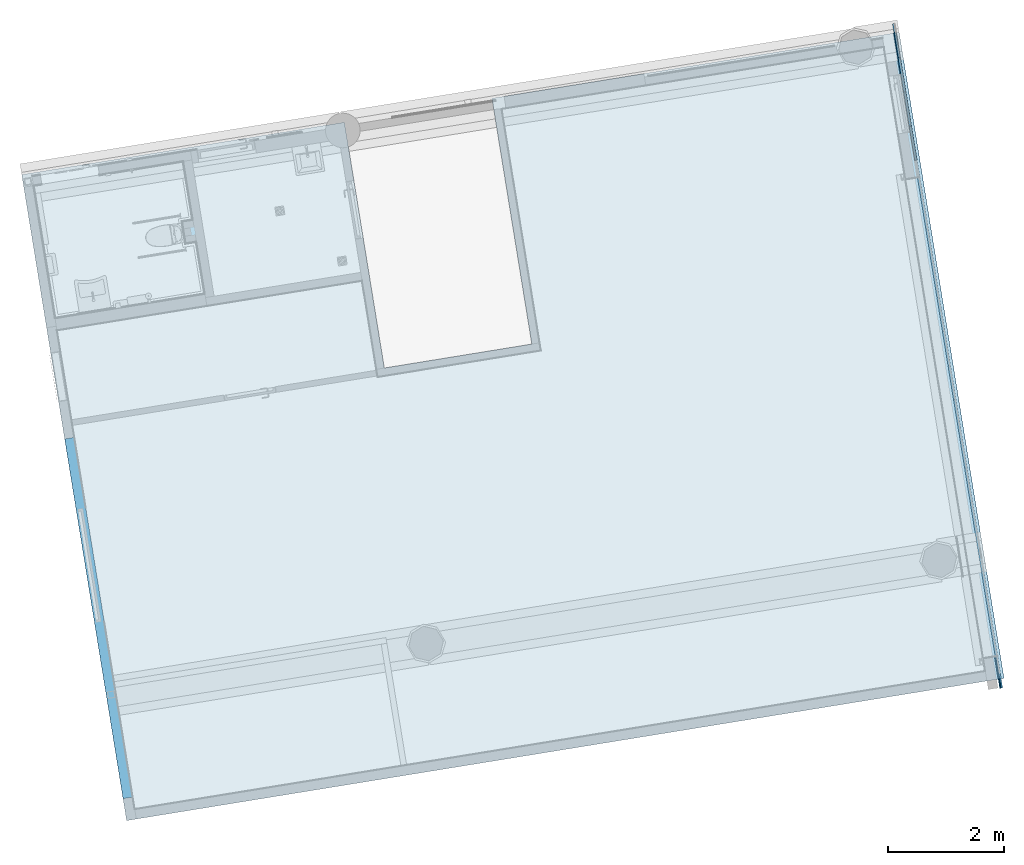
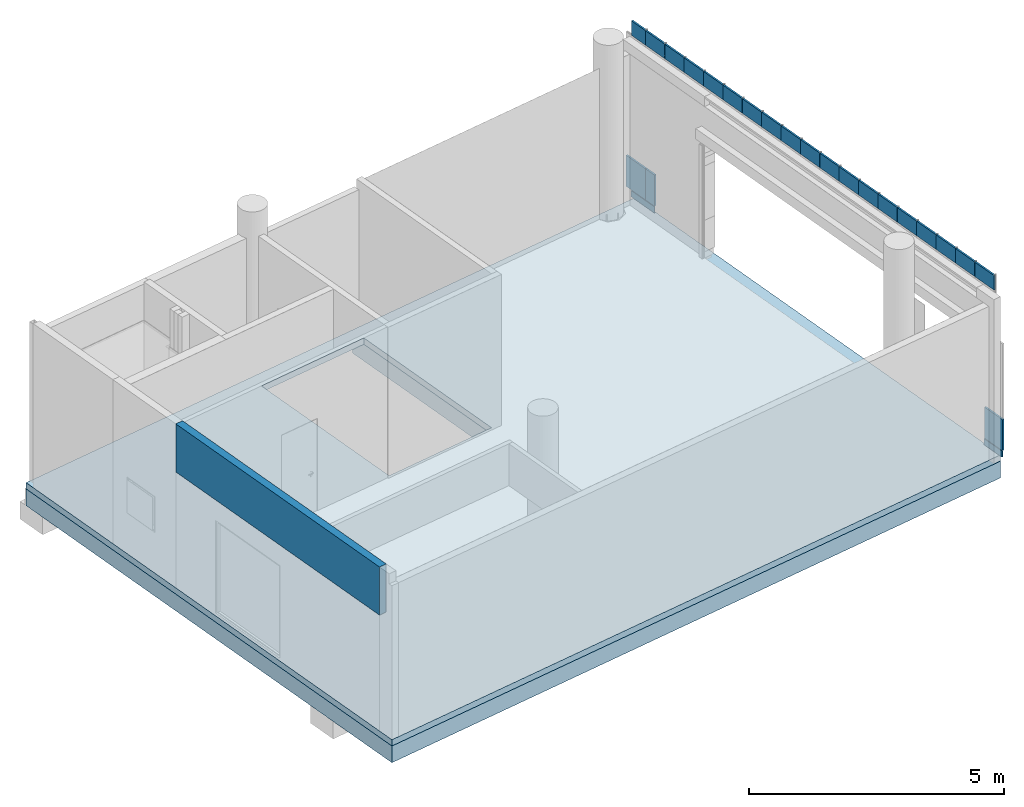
# One storey, part 14 of 38: 24 plates, 2 slabs, 1 wall, 1 element without a shape of its own.
"""IFC2X3 building model written with IfcOpenShell, lengths in millimetres."""

from ifc_helpers import new_model, entity, si_unit, converted_unit, derived_unit, direction, frame, frame_2d, origin, origin_with_axes, origin_2d_with_axis, place, context, subcontext, project, spatial, rectangle, extrude, faceted_brep, source, transform, mapped, material, layer, layer_set, layer_usage, type_object, element, aggregate, save


model = new_model("IFC2X3")

# Units and contexts
model_context = context("Model", 3, precision=0.01, world=origin(), true_north=direction((6.12323399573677e-17, 1.0)))
plan_context = context("Plan", 3, precision=1e-05, world=origin_with_axes())
body_context = subcontext(model_context, "Body", "Model", "MODEL_VIEW")
ifc_project = project(units=[converted_unit("PLANEANGLEUNIT", "DEGREE", entity("IfcPositiveLengthMeasure", 0.0174532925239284), si_unit("PLANEANGLEUNIT", "RADIAN"), dimensions=[0, 0, 0, 0, 0, 0, 0]), si_unit("AREAUNIT", "SQUARE_METRE"), si_unit("LENGTHUNIT", "METRE", prefix="MILLI"), si_unit("MASSUNIT", "GRAM", prefix="KILO"), si_unit("POWERUNIT", "WATT"), si_unit("PRESSUREUNIT", "PASCAL", prefix="KILO"), si_unit("FORCEUNIT", "NEWTON", prefix="KILO"), si_unit("ELECTRICVOLTAGEUNIT", "VOLT"), si_unit("ELECTRICCURRENTUNIT", "AMPERE"), si_unit("THERMODYNAMICTEMPERATUREUNIT", "DEGREE_CELSIUS"), si_unit("TIMEUNIT", "SECOND"), si_unit("VOLUMEUNIT", "CUBIC_METRE"), derived_unit("LINEARVELOCITYUNIT", [(si_unit("LENGTHUNIT", "METRE"), 1), (si_unit("TIMEUNIT", "SECOND"), -1)]), derived_unit("VOLUMETRICFLOWRATEUNIT", [(si_unit("VOLUMEUNIT", "CUBIC_METRE"), 1), (si_unit("TIMEUNIT", "SECOND"), -1)]), derived_unit("THERMALTRANSMITTANCEUNIT", [(si_unit("POWERUNIT", "WATT"), 1), (si_unit("THERMODYNAMICTEMPERATUREUNIT", "KELVIN"), -1), (si_unit("AREAUNIT", "SQUARE_METRE"), -1)]), derived_unit("SOUNDPRESSUREUNIT", [(si_unit("PRESSUREUNIT", "PASCAL"), 1)])], contexts=[model_context, plan_context])

# Site, building, storey
site_placement = place(None, frame((-0.00071070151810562, 0.00438415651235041, 0.0), z_axis=(0.0, 0.0, 1.0), x_axis=(-0.160236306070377, 0.987078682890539, 0.0)))
site = spatial("IfcSite", under=ifc_project, at=site_placement, Name="Default", CompositionType="ELEMENT")
building_placement = place(site_placement, origin_with_axes())
building = spatial("IfcBuilding", under=site, at=building_placement, Name="TOO", CompositionType="ELEMENT")
storey_placement = place(building_placement, frame((0.0, 0.0, 50999.9999999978), z_axis=(0.0, 0.0, 1.0), x_axis=(1.0, 0.0, 0.0)))
storey = spatial("IfcBuildingStorey", under=building, at=storey_placement, Name="Nivå D-H01", CompositionType="ELEMENT", Elevation=50999.9999999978)

# Curtain wall, plates
curtain_wall_type = type_object("IfcCurtainWallType", Name="Curtain Wall:Curtain Wall Standard (Bruk kun denne)", PredefinedType="NOTDEFINED")
curtain_wall_placement = place(storey_placement, frame((0.0, 0.0, -50999.9999999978), z_axis=(0.0, 0.0, 1.0), x_axis=(1.0, 0.0, 0.0)))
curtain_wall = element("IfcCurtainWall", 1, at=curtain_wall_placement, inside=storey, type_object=curtain_wall_type, Name="Curtain Wall:Curtain Wall Standard (Bruk kun denne)", ObjectType="Curtain Wall:Curtain Wall Standard (Bruk kun denne)")
ifc_material_1 = material(Name="A246 - M _veggkledning metall")
plate_type_1 = type_object("IfcPlateType", Name="A249-S01 - Sokkel veggkledning:A249-S01 - Sokkel veggkledning", PredefinedType="CURTAIN_PANEL", material=ifc_material_1)
shared_shape_1 = source(origin(), body_context, "Body", "SweptSolid", [
    extrude(rectangle(XDim=20.0, YDim=555.000000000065, at=frame_2d((-3.5527136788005e-15, 0.0), x_axis=(1.0, 0.0))), frame((0.0, -40.0, 0.0), z_axis=(0.0, 0.0, 1.0), x_axis=(0.0, -1.0, 0.0)), (0.0, 0.0, 1.0), 147.500000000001),
])
plate_1_placement = place(curtain_wall_placement, frame((768797.619644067, -604232.480498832, 50999.9999999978), z_axis=(0.0, 0.0, 1.0), x_axis=(-1.0, 0.0, 0.0)))
plate_1 = element("IfcPlate", 2, at=plate_1_placement, type_object=plate_type_1, material=ifc_material_1, Name="A249-S01 - Sokkel veggkledning:A249-S01 - Sokkel veggkledning", ObjectType="A249-S01 - Sokkel veggkledning:A249-S01 - Sokkel veggkledning", context=body_context, shape_type="MappedRepresentation", body=[
    mapped(shared_shape_1, transform((0.0, 0.0, 0.0), scale=1.0)),
])
ifc_material_2 = material(Name="A246 - T _veggkledning trespiler")
plate_type_2 = type_object("IfcPlateType", Name="System Panel:A246-T01 - Trespiler", PredefinedType="CURTAIN_PANEL", material=ifc_material_2)
shared_shape_2 = source(origin(), body_context, "Body", "SweptSolid", [
    extrude(rectangle(XDim=40.0, YDim=595.000000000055, at=origin_2d_with_axis()), frame((0.0, -20.0, 0.0), z_axis=(0.0, 0.0, 1.0), x_axis=(0.0, 1.0, 0.0)), (0.0, 0.0, 1.0), 745.000000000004),
])
plate_2_placement = place(curtain_wall_placement, frame((779877.619644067, -604232.480498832, 51152.4999999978), z_axis=(0.0, 0.0, 1.0), x_axis=(-1.0, 0.0, 0.0)))
plate_2 = element("IfcPlate", 3, at=plate_2_placement, type_object=plate_type_2, material=ifc_material_2, Name="System Panel:A246-T01 - Trespiler", ObjectType="System Panel:A246-T01 - Trespiler", context=body_context, shape_type="MappedRepresentation", body=[
    mapped(shared_shape_2, transform((0.0, 0.0, 0.0), scale=1.0)),
])
plate_type_3 = type_object("IfcPlateType", Name="System Panel:A246-T01 - Trespiler", PredefinedType="CURTAIN_PANEL", material=ifc_material_2)
shared_shape_3 = source(origin(), body_context, "Body", "SweptSolid", [
    extrude(rectangle(XDim=40.0, YDim=280.000000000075, at=origin_2d_with_axis()), frame((0.0, -20.0, 0.0), z_axis=(0.0, 0.0, 1.0), x_axis=(0.0, 1.0, 0.0)), (0.0, 0.0, 1.0), 745.000000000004),
])
plate_3_placement = place(curtain_wall_placement, frame((779435.119644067, -604232.480498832, 51152.4999999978), z_axis=(0.0, 0.0, 1.0), x_axis=(-1.0, 0.0, 0.0)))
plate_3 = element("IfcPlate", 4, at=plate_3_placement, type_object=plate_type_3, material=ifc_material_2, Name="System Panel:A246-T01 - Trespiler", ObjectType="System Panel:A246-T01 - Trespiler", context=body_context, shape_type="MappedRepresentation", body=[
    mapped(shared_shape_3, transform((0.0, 0.0, 0.0), scale=1.0)),
])
plate_type_4 = type_object("IfcPlateType", Name="System Panel:A246-T01 - Trespiler", PredefinedType="CURTAIN_PANEL", material=ifc_material_2)
shared_shape_4 = source(origin(), body_context, "Body", "SweptSolid", [
    extrude(rectangle(XDim=745.000000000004, YDim=555.000000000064, at=frame_2d((0.0, -6.66666666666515), x_axis=(1.0, 0.0))), frame((6.66666666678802, -40.0, 372.500000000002), z_axis=(0.0, 1.0, 0.0), x_axis=(0.0, 0.0, 1.0)), (0.0, 0.0, 1.0), 40.0),
])
plate_4_placement = place(curtain_wall_placement, frame((768797.619644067, -604232.480498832, 51152.4999999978), z_axis=(0.0, 0.0, 1.0), x_axis=(-1.0, 0.0, 0.0)))
plate_4 = element("IfcPlate", 5, at=plate_4_placement, type_object=plate_type_4, material=ifc_material_2, Name="System Panel:A246-T01 - Trespiler", ObjectType="System Panel:A246-T01 - Trespiler", context=body_context, shape_type="MappedRepresentation", body=[
    mapped(shared_shape_4, transform((0.0, 0.0, 0.0), scale=1.0)),
])
plate_type_5 = type_object("IfcPlateType", Name="A249-S01 - Sokkel veggkledning:A249-S01 - Sokkel veggkledning", PredefinedType="CURTAIN_PANEL", material=ifc_material_1)
plate_5_placement = place(curtain_wall_placement, frame((779956.369644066, -604232.480498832, 50999.9999999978), z_axis=(0.0, 0.0, 1.0), x_axis=(-1.0, 0.0, 0.0)))
plate_5 = element("IfcPlate", 6, at=plate_5_placement, type_object=plate_type_5, Name="A249-S01 - Sokkel veggkledning:A249-S01 - Sokkel veggkledning", ObjectType="A249-S01 - Sokkel veggkledning:A249-S01 - Sokkel veggkledning", context=body_context, shape_type="Brep", body=[
    faceted_brep([(-56.2499999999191, -30.0, 147.500000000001), (-56.2499999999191, -30.0, 0.0), (668.750000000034, -30.0, 0.0), (668.750000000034, -30.0, 147.500000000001), (-56.2499999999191, -50.0, 0.0), (-56.2499999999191, -50.0, 147.500000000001), (668.750000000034, -50.0, 147.500000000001), (668.750000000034, -50.0, 0.0)], [[[0, 1, 2, 3]], [[4, 5, 6, 7]], [[7, 6, 3, 2]], [[1, 4, 7, 2]], [[5, 0, 3, 6]], [[5, 4, 1, 0]]], orient=[[False], [False], [False], [False], [False], [False]]),
])
plate_type_6 = type_object("IfcPlateType", Name="System Panel:A246-T01 - Trespiler", PredefinedType="CURTAIN_PANEL", material=ifc_material_2)
plate_6_placement = place(curtain_wall_placement, frame((779877.619644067, -604232.480498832, 54852.5), z_axis=(0.0, 0.0, 1.0), x_axis=(-1.0, 0.0, 0.0)))
plate_6 = element("IfcPlate", 7, at=plate_6_placement, type_object=plate_type_6, Name="System Panel:A246-T01 - Trespiler", ObjectType="System Panel:A246-T01 - Trespiler", context=body_context, shape_type="Brep", body=[
    faceted_brep([(-134.999999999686, -40.0, 0.0), (-134.999999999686, -40.0, 347.499999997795), (297.500000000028, -40.0, 347.499999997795), (297.500000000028, -40.0, 0.0), (297.500000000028, 0.0, 347.499999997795), (297.500000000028, 0.0, 0.0), (-134.999999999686, 0.0, 347.499999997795), (-134.999999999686, 0.0, 0.0)], [[[0, 1, 2, 3]], [[2, 4, 5, 3]], [[4, 6, 7, 5]], [[7, 0, 3, 5]], [[1, 0, 7, 6]], [[6, 4, 2, 1]]], orient=[[False], [False], [False], [False], [False], [False]]),
])
plate_7_placement = place(curtain_wall_placement, frame((778677.619644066, -604232.480498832, 54852.5), z_axis=(0.0, 0.0, 1.0), x_axis=(-1.0, 0.0, 0.0)))
plate_7 = element("IfcPlate", 8, at=plate_7_placement, type_object=plate_type_6, Name="System Panel:A246-T01 - Trespiler", ObjectType="System Panel:A246-T01 - Trespiler", context=body_context, shape_type="Brep", body=[
    faceted_brep([(-297.500000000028, -40.0, 347.499999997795), (297.500000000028, -40.0, 347.499999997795), (297.500000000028, -40.0, 0.0), (-297.500000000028, -40.0, 0.0), (297.500000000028, 0.0, 347.499999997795), (297.500000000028, 0.0, 0.0), (-297.500000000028, 0.0, 347.499999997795), (-297.500000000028, 0.0, 0.0)], [[[0, 1, 2, 3]], [[1, 4, 5, 2]], [[4, 6, 7, 5]], [[6, 0, 3, 7]], [[3, 2, 5, 7]], [[6, 4, 1, 0]]], orient=[[False], [False], [False], [False], [False], [False]]),
])
plate_8_placement = place(curtain_wall_placement, frame((776877.619644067, -604232.480498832, 54852.5), z_axis=(0.0, 0.0, 1.0), x_axis=(-1.0, 0.0, 0.0)))
plate_8 = element("IfcPlate", 9, at=plate_8_placement, type_object=plate_type_6, Name="System Panel:A246-T01 - Trespiler", ObjectType="System Panel:A246-T01 - Trespiler", context=body_context, shape_type="Brep", body=[
    faceted_brep([(-297.500000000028, -40.0, 347.499999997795), (297.500000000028, -40.0, 347.499999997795), (297.500000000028, -40.0, 0.0), (-297.500000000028, -40.0, 0.0), (297.500000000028, 0.0, 347.499999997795), (297.500000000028, 0.0, 0.0), (-297.500000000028, 0.0, 347.499999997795), (-297.500000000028, 0.0, 0.0)], [[[0, 1, 2, 3]], [[1, 4, 5, 2]], [[4, 6, 7, 5]], [[6, 0, 3, 7]], [[3, 2, 5, 7]], [[6, 4, 1, 0]]], orient=[[False], [False], [False], [False], [False], [False]]),
])
plate_9_placement = place(curtain_wall_placement, frame((776277.619644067, -604232.480498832, 54852.5), z_axis=(0.0, 0.0, 1.0), x_axis=(-1.0, 0.0, 0.0)))
plate_9 = element("IfcPlate", 10, at=plate_9_placement, type_object=plate_type_6, Name="System Panel:A246-T01 - Trespiler", ObjectType="System Panel:A246-T01 - Trespiler", context=body_context, shape_type="Brep", body=[
    faceted_brep([(-297.500000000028, -40.0, 347.499999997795), (297.500000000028, -40.0, 347.499999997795), (297.500000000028, -40.0, 0.0), (-297.500000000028, -40.0, 0.0), (297.500000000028, 0.0, 347.499999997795), (297.500000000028, 0.0, 0.0), (-297.500000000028, 0.0, 347.499999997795), (-297.500000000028, 0.0, 0.0)], [[[0, 1, 2, 3]], [[1, 4, 5, 2]], [[4, 6, 7, 5]], [[6, 0, 3, 7]], [[3, 2, 5, 7]], [[6, 4, 1, 0]]], orient=[[False], [False], [False], [False], [False], [False]]),
])
plate_10_placement = place(curtain_wall_placement, frame((775677.619644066, -604232.480498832, 54852.5), z_axis=(0.0, 0.0, 1.0), x_axis=(-1.0, 0.0, 0.0)))
plate_10 = element("IfcPlate", 11, at=plate_10_placement, type_object=plate_type_6, Name="System Panel:A246-T01 - Trespiler", ObjectType="System Panel:A246-T01 - Trespiler", context=body_context, shape_type="Brep", body=[
    faceted_brep([(-297.500000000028, -40.0, 347.499999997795), (297.500000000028, -40.0, 347.499999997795), (297.500000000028, -40.0, 0.0), (-297.500000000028, -40.0, 0.0), (297.500000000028, 0.0, 347.499999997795), (297.500000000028, 0.0, 0.0), (-297.500000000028, 0.0, 347.499999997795), (-297.500000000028, 0.0, 0.0)], [[[0, 1, 2, 3]], [[1, 4, 5, 2]], [[4, 6, 7, 5]], [[6, 0, 3, 7]], [[3, 2, 5, 7]], [[6, 4, 1, 0]]], orient=[[False], [False], [False], [False], [False], [False]]),
])
plate_11_placement = place(curtain_wall_placement, frame((775077.619644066, -604232.480498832, 54852.5), z_axis=(0.0, 0.0, 1.0), x_axis=(-1.0, 0.0, 0.0)))
plate_11 = element("IfcPlate", 12, at=plate_11_placement, type_object=plate_type_6, Name="System Panel:A246-T01 - Trespiler", ObjectType="System Panel:A246-T01 - Trespiler", context=body_context, shape_type="Brep", body=[
    faceted_brep([(-297.500000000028, -40.0, 347.499999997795), (297.500000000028, -40.0, 347.499999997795), (297.500000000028, -40.0, 0.0), (-297.500000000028, -40.0, 0.0), (297.500000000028, 0.0, 347.499999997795), (297.500000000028, 0.0, 0.0), (-297.500000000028, 0.0, 347.499999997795), (-297.500000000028, 0.0, 0.0)], [[[0, 1, 2, 3]], [[1, 4, 5, 2]], [[4, 6, 7, 5]], [[6, 0, 3, 7]], [[3, 2, 5, 7]], [[6, 4, 1, 0]]], orient=[[False], [False], [False], [False], [False], [False]]),
])
plate_12_placement = place(curtain_wall_placement, frame((774477.619644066, -604232.480498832, 54852.5), z_axis=(0.0, 0.0, 1.0), x_axis=(-1.0, 0.0, 0.0)))
plate_12 = element("IfcPlate", 13, at=plate_12_placement, type_object=plate_type_6, Name="System Panel:A246-T01 - Trespiler", ObjectType="System Panel:A246-T01 - Trespiler", context=body_context, shape_type="Brep", body=[
    faceted_brep([(-297.500000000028, -40.0, 347.499999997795), (297.500000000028, -40.0, 347.499999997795), (297.500000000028, -40.0, 0.0), (-297.500000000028, -40.0, 0.0), (297.500000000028, 0.0, 347.499999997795), (297.500000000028, 0.0, 0.0), (-297.500000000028, 0.0, 347.499999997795), (-297.500000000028, 0.0, 0.0)], [[[0, 1, 2, 3]], [[1, 4, 5, 2]], [[4, 6, 7, 5]], [[6, 0, 3, 7]], [[3, 2, 5, 7]], [[6, 4, 1, 0]]], orient=[[False], [False], [False], [False], [False], [False]]),
])
plate_13_placement = place(curtain_wall_placement, frame((773877.619644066, -604232.480498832, 54852.5), z_axis=(0.0, 0.0, 1.0), x_axis=(-1.0, 0.0, 0.0)))
plate_13 = element("IfcPlate", 14, at=plate_13_placement, type_object=plate_type_6, Name="System Panel:A246-T01 - Trespiler", ObjectType="System Panel:A246-T01 - Trespiler", context=body_context, shape_type="Brep", body=[
    faceted_brep([(-297.500000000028, -40.0, 347.499999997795), (297.500000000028, -40.0, 347.499999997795), (297.500000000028, -40.0, 0.0), (-297.500000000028, -40.0, 0.0), (297.500000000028, 0.0, 347.499999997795), (297.500000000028, 0.0, 0.0), (-297.500000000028, 0.0, 347.499999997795), (-297.500000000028, 0.0, 0.0)], [[[0, 1, 2, 3]], [[1, 4, 5, 2]], [[4, 6, 7, 5]], [[6, 0, 3, 7]], [[3, 2, 5, 7]], [[6, 4, 1, 0]]], orient=[[False], [False], [False], [False], [False], [False]]),
])
plate_14_placement = place(curtain_wall_placement, frame((773277.619644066, -604232.480498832, 54852.5), z_axis=(0.0, 0.0, 1.0), x_axis=(-1.0, 0.0, 0.0)))
plate_14 = element("IfcPlate", 15, at=plate_14_placement, type_object=plate_type_6, Name="System Panel:A246-T01 - Trespiler", ObjectType="System Panel:A246-T01 - Trespiler", context=body_context, shape_type="Brep", body=[
    faceted_brep([(-297.500000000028, -40.0, 347.499999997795), (297.500000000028, -40.0, 347.499999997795), (297.500000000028, -40.0, 0.0), (-297.500000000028, -40.0, 0.0), (297.500000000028, 0.0, 347.499999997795), (297.500000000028, 0.0, 0.0), (-297.500000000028, 0.0, 347.499999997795), (-297.500000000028, 0.0, 0.0)], [[[0, 1, 2, 3]], [[1, 4, 5, 2]], [[4, 6, 7, 5]], [[6, 0, 3, 7]], [[3, 2, 5, 7]], [[6, 4, 1, 0]]], orient=[[False], [False], [False], [False], [False], [False]]),
])
plate_15_placement = place(curtain_wall_placement, frame((772677.619644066, -604232.480498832, 54852.5), z_axis=(0.0, 0.0, 1.0), x_axis=(-1.0, 0.0, 0.0)))
plate_15 = element("IfcPlate", 16, at=plate_15_placement, type_object=plate_type_6, Name="System Panel:A246-T01 - Trespiler", ObjectType="System Panel:A246-T01 - Trespiler", context=body_context, shape_type="Brep", body=[
    faceted_brep([(-297.500000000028, -40.0, 347.499999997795), (297.500000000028, -40.0, 347.499999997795), (297.500000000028, -40.0, 0.0), (-297.500000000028, -40.0, 0.0), (297.500000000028, 0.0, 347.499999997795), (297.500000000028, 0.0, 0.0), (-297.500000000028, 0.0, 347.499999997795), (-297.500000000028, 0.0, 0.0)], [[[0, 1, 2, 3]], [[1, 4, 5, 2]], [[4, 6, 7, 5]], [[6, 0, 3, 7]], [[3, 2, 5, 7]], [[6, 4, 1, 0]]], orient=[[False], [False], [False], [False], [False], [False]]),
])
plate_16_placement = place(curtain_wall_placement, frame((772077.619644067, -604232.480498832, 54852.5), z_axis=(0.0, 0.0, 1.0), x_axis=(-1.0, 0.0, 0.0)))
plate_16 = element("IfcPlate", 17, at=plate_16_placement, type_object=plate_type_6, Name="System Panel:A246-T01 - Trespiler", ObjectType="System Panel:A246-T01 - Trespiler", context=body_context, shape_type="Brep", body=[
    faceted_brep([(-297.500000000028, -40.0, 347.499999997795), (297.500000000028, -40.0, 347.499999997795), (297.500000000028, -40.0, 0.0), (-297.500000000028, -40.0, 0.0), (297.500000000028, 0.0, 347.499999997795), (297.500000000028, 0.0, 0.0), (-297.500000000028, 0.0, 347.499999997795), (-297.500000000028, 0.0, 0.0)], [[[0, 1, 2, 3]], [[1, 4, 5, 2]], [[4, 6, 7, 5]], [[6, 0, 3, 7]], [[3, 2, 5, 7]], [[6, 4, 1, 0]]], orient=[[False], [False], [False], [False], [False], [False]]),
])
plate_17_placement = place(curtain_wall_placement, frame((771477.619644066, -604232.480498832, 54852.5), z_axis=(0.0, 0.0, 1.0), x_axis=(-1.0, 0.0, 0.0)))
plate_17 = element("IfcPlate", 18, at=plate_17_placement, type_object=plate_type_6, Name="System Panel:A246-T01 - Trespiler", ObjectType="System Panel:A246-T01 - Trespiler", context=body_context, shape_type="Brep", body=[
    faceted_brep([(-297.500000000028, -40.0, 347.499999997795), (297.500000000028, -40.0, 347.499999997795), (297.500000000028, -40.0, 0.0), (-297.500000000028, -40.0, 0.0), (297.500000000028, 0.0, 347.499999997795), (297.500000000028, 0.0, 0.0), (-297.500000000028, 0.0, 347.499999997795), (-297.500000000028, 0.0, 0.0)], [[[0, 1, 2, 3]], [[1, 4, 5, 2]], [[4, 6, 7, 5]], [[6, 0, 3, 7]], [[3, 2, 5, 7]], [[6, 4, 1, 0]]], orient=[[False], [False], [False], [False], [False], [False]]),
])
plate_18_placement = place(curtain_wall_placement, frame((770877.619644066, -604232.480498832, 54852.5), z_axis=(0.0, 0.0, 1.0), x_axis=(-1.0, 0.0, 0.0)))
plate_18 = element("IfcPlate", 19, at=plate_18_placement, type_object=plate_type_6, Name="System Panel:A246-T01 - Trespiler", ObjectType="System Panel:A246-T01 - Trespiler", context=body_context, shape_type="Brep", body=[
    faceted_brep([(-297.500000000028, -40.0, 347.499999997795), (297.500000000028, -40.0, 347.499999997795), (297.500000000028, -40.0, 0.0), (-297.500000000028, -40.0, 0.0), (297.500000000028, 0.0, 347.499999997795), (297.500000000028, 0.0, 0.0), (-297.500000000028, 0.0, 347.499999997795), (-297.500000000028, 0.0, 0.0)], [[[0, 1, 2, 3]], [[1, 4, 5, 2]], [[4, 6, 7, 5]], [[6, 0, 3, 7]], [[3, 2, 5, 7]], [[6, 4, 1, 0]]], orient=[[False], [False], [False], [False], [False], [False]]),
])
plate_19_placement = place(curtain_wall_placement, frame((770277.619644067, -604232.480498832, 54852.5), z_axis=(0.0, 0.0, 1.0), x_axis=(-1.0, 0.0, 0.0)))
plate_19 = element("IfcPlate", 20, at=plate_19_placement, type_object=plate_type_6, Name="System Panel:A246-T01 - Trespiler", ObjectType="System Panel:A246-T01 - Trespiler", context=body_context, shape_type="Brep", body=[
    faceted_brep([(-297.500000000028, -40.0, 347.499999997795), (297.500000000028, -40.0, 347.499999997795), (297.500000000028, -40.0, 0.0), (-297.500000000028, -40.0, 0.0), (297.500000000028, 0.0, 347.499999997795), (297.500000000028, 0.0, 0.0), (-297.500000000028, 0.0, 347.499999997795), (-297.500000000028, 0.0, 0.0)], [[[0, 1, 2, 3]], [[1, 4, 5, 2]], [[4, 6, 7, 5]], [[6, 0, 3, 7]], [[3, 2, 5, 7]], [[6, 4, 1, 0]]], orient=[[False], [False], [False], [False], [False], [False]]),
])
plate_20_placement = place(curtain_wall_placement, frame((769677.619644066, -604232.480498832, 54852.5), z_axis=(0.0, 0.0, 1.0), x_axis=(-1.0, 0.0, 0.0)))
plate_20 = element("IfcPlate", 21, at=plate_20_placement, type_object=plate_type_6, Name="System Panel:A246-T01 - Trespiler", ObjectType="System Panel:A246-T01 - Trespiler", context=body_context, shape_type="Brep", body=[
    faceted_brep([(-297.500000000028, -40.0, 347.499999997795), (297.500000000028, -40.0, 347.499999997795), (297.500000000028, -40.0, 0.0), (-297.500000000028, -40.0, 0.0), (297.500000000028, 0.0, 347.499999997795), (297.500000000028, 0.0, 0.0), (-297.500000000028, 0.0, 347.499999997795), (-297.500000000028, 0.0, 0.0)], [[[0, 1, 2, 3]], [[1, 4, 5, 2]], [[4, 6, 7, 5]], [[6, 0, 3, 7]], [[3, 2, 5, 7]], [[6, 4, 1, 0]]], orient=[[False], [False], [False], [False], [False], [False]]),
])
plate_type_7 = type_object("IfcPlateType", Name="System Panel:A246-T01 - Trespiler", PredefinedType="CURTAIN_PANEL", material=ifc_material_2)
plate_21_placement = place(curtain_wall_placement, frame((777477.619644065, -604232.480498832, 54852.5), z_axis=(0.0, 0.0, 1.0), x_axis=(-1.0, 0.0, 0.0)))
plate_21 = element("IfcPlate", 22, at=plate_21_placement, type_object=plate_type_7, Name="System Panel:A246-T01 - Trespiler", ObjectType="System Panel:A246-T01 - Trespiler", context=body_context, shape_type="Brep", body=[
    faceted_brep([(297.500000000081, -40.0, 0.0), (297.500000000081, 0.0, 0.0), (-297.500000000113, 0.0, 0.0), (-297.500000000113, -40.0, 0.0), (-297.500000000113, 0.0, 347.499999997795), (-297.500000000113, -40.0, 347.499999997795), (297.500000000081, -40.0, 347.499999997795), (297.500000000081, 0.0, 347.499999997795)], [[[0, 1, 2, 3]], [[4, 5, 3, 2]], [[6, 7, 1, 0]], [[5, 6, 0, 3]], [[7, 4, 2, 1]], [[7, 6, 5, 4]]], orient=[[False], [False], [False], [False], [False], [False]]),
])
plate_22_placement = place(curtain_wall_placement, frame((769077.619644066, -604232.480498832, 54852.5), z_axis=(0.0, 0.0, 1.0), x_axis=(-1.0, 0.0, 0.0)))
plate_22 = element("IfcPlate", 23, at=plate_22_placement, type_object=plate_type_7, Name="System Panel:A246-T01 - Trespiler", ObjectType="System Panel:A246-T01 - Trespiler", context=body_context, shape_type="Brep", body=[
    faceted_brep([(297.500000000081, -40.0, 0.0), (297.500000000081, 0.0, 0.0), (-297.500000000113, 0.0, 0.0), (-297.500000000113, -40.0, 0.0), (-297.500000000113, 0.0, 347.499999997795), (-297.500000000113, -40.0, 347.499999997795), (297.500000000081, -40.0, 347.499999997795), (297.500000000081, 0.0, 347.499999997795)], [[[0, 1, 2, 3]], [[4, 5, 3, 2]], [[6, 7, 1, 0]], [[5, 6, 0, 3]], [[7, 4, 2, 1]], [[7, 6, 5, 4]]], orient=[[False], [False], [False], [False], [False], [False]]),
])
plate_type_8 = type_object("IfcPlateType", Name="System Panel:A246-T01 - Trespiler", PredefinedType="CURTAIN_PANEL", material=ifc_material_2)
plate_23_placement = place(curtain_wall_placement, frame((779277.619644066, -604232.480498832, 54852.5), z_axis=(0.0, 0.0, 1.0), x_axis=(-1.0, 0.0, 0.0)))
plate_23 = element("IfcPlate", 24, at=plate_23_placement, type_object=plate_type_8, Name="System Panel:A246-T01 - Trespiler", ObjectType="System Panel:A246-T01 - Trespiler", context=body_context, shape_type="Brep", body=[
    faceted_brep([(297.500000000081, -40.0, 0.0), (297.500000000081, 0.0, 0.0), (-297.500000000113, 0.0, 0.0), (-297.500000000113, -40.0, 0.0), (-297.500000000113, 0.0, 347.499999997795), (-297.500000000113, -40.0, 347.499999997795), (297.500000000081, -40.0, 347.499999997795), (297.500000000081, 0.0, 347.499999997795)], [[[0, 1, 2, 3]], [[4, 5, 3, 2]], [[6, 7, 1, 0]], [[5, 6, 0, 3]], [[7, 4, 2, 1]], [[7, 6, 5, 4]]], orient=[[False], [False], [False], [False], [False], [False]]),
])
plate_type_9 = type_object("IfcPlateType", Name="System Panel:A246-T01 - Trespiler", PredefinedType="CURTAIN_PANEL", material=ifc_material_2)
plate_24_placement = place(curtain_wall_placement, frame((778077.619644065, -604232.480498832, 54852.5), z_axis=(0.0, 0.0, 1.0), x_axis=(-1.0, 0.0, 0.0)))
plate_24 = element("IfcPlate", 25, at=plate_24_placement, type_object=plate_type_9, Name="System Panel:A246-T01 - Trespiler", ObjectType="System Panel:A246-T01 - Trespiler", context=body_context, shape_type="Brep", body=[
    faceted_brep([(297.500000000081, -40.0, 0.0), (297.500000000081, 0.0, 0.0), (-297.500000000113, 0.0, 0.0), (-297.500000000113, -40.0, 0.0), (-297.500000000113, 0.0, 347.499999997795), (-297.500000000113, -40.0, 347.499999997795), (297.500000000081, -40.0, 347.499999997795), (297.500000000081, 0.0, 347.499999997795)], [[[0, 1, 2, 3]], [[4, 5, 3, 2]], [[6, 7, 1, 0]], [[5, 6, 0, 3]], [[7, 4, 2, 1]], [[7, 6, 5, 4]]], orient=[[False], [False], [False], [False], [False], [False]]),
])
aggregate(curtain_wall, [plate_1, plate_2, plate_3, plate_4, plate_6, plate_23, plate_7, plate_24, plate_21, plate_8, plate_9, plate_10, plate_11, plate_12, plate_13, plate_14, plate_15, plate_16, plate_17, plate_18, plate_19, plate_20, plate_22, plate_5])

# Slabs
ifc_material_3 = material(Name="_NSW Betong")
ifc_layer_1 = layer(ifc_material_3, 400.0)
ifc_layer_set_1 = layer_set([ifc_layer_1], Name="Floor:A252 - Hulldekke 400 mm")
slab_type_1 = type_object("IfcSlabType", Name="Floor:A252 - Hulldekke 400 mm", PredefinedType="FLOOR", material=ifc_layer_set_1)
slab_1_placement = place(storey_placement, frame((751027.619644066, -619133.559358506, -620.0), z_axis=(0.0, 0.0, 1.0), x_axis=(1.0, 0.0, 0.0)))
element("IfcSlab", 26, at=slab_1_placement, inside=storey, type_object=slab_type_1, Name="Floor:A252 - Hulldekke 400 mm", ObjectType="Floor:A252 - Hulldekke 400 mm", PredefinedType="FLOOR", context=body_context, shape_type="Brep", body=[
    faceted_brep([(28985.0, 21993.5788679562, 400.0), (28985.0, 14851.0788596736, 400.0), (17655.0, 14851.0788596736, 400.0), (17655.0, 30241.0776196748, 400.0), (28985.0, 30241.0776196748, 400.0), (28985.0, 24581.0788596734, 400.0), (24674.973539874, 24581.0788596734, 400.0), (24674.973539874, 21993.5788679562, 400.0), (28985.0, 24581.0788596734, 0.0), (28985.0, 30241.0776196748, 4.43378667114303e-12), (17655.0, 30241.0776196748, 4.43378667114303e-12), (17655.0, 14851.0788596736, 4.43378667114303e-12), (28985.0, 14851.0788596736, 4.37694325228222e-12), (28985.0, 21993.5788679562, 0.0), (24674.973539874, 21993.5788679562, 0.0), (24674.973539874, 24581.0788596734, 0.0)], [[[0, 1, 2, 3, 4, 5, 6, 7]], [[8, 9, 10, 11, 12, 13, 14, 15]], [[6, 15, 14, 7]], [[5, 8, 15, 6]], [[13, 0, 7, 14]], [[9, 8, 5, 4]], [[1, 0, 13, 12]], [[4, 3, 10, 9]], [[3, 2, 11, 10]], [[2, 1, 12, 11]]], orient=[[False], [False], [False], [False], [False], [False], [False], [False], [False], [False]]),
])
ifc_layer_2 = layer(ifc_material_3, 150.0)
ifc_layer_set_2 = layer_set([ifc_layer_2], Name="Floor:A253 - Betong Påstop 150mm")
slab_type_2 = type_object("IfcSlabType", Name="Floor:A253 - Betong Påstop 150mm", PredefinedType="FLOOR", material=ifc_layer_set_2)
slab_2_placement = place(storey_placement, frame((750577.619644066, -620432.559358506, -220.0), z_axis=(0.0, 0.0, 1.0), x_axis=(1.0, 0.0, 0.0)))
element("IfcSlab", 27, at=slab_2_placement, inside=storey, type_object=slab_type_2, Name="Floor:A253 - Betong Påstop 150mm", ObjectType="Floor:A253 - Betong Påstop 150mm", PredefinedType="FLOOR", context=body_context, shape_type="Brep", body=[
    faceted_brep([(18105.0, 16150.0788596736, 150.0), (18105.0, 31540.0776196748, 150.0), (29435.0, 31540.0776196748, 150.0), (29435.0, 16150.0788596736, 150.0), (25124.9735398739, 25880.0788596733, 150.0), (25124.9735398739, 23292.5788679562, 150.0), (29079.3588583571, 23292.5788679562, 150.0), (29079.3588583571, 25880.0788596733, 150.0), (18105.0, 31540.0776196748, -1.02318153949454e-12), (18105.0, 16150.0788596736, -1.02318153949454e-12), (29435.0, 16150.0788596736, -6.82121026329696e-13), (29435.0, 31540.0776196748, -1.02318153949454e-12), (25124.9735398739, 23292.5788679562, 0.0), (25124.9735398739, 25880.0788596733, 0.0), (29079.3588583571, 25880.0788596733, 0.0), (29079.3588583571, 23292.5788679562, 0.0)], [[[0, 1, 2, 3], [4, 5, 6, 7]], [[8, 9, 10, 11], [12, 13, 14, 15]], [[6, 15, 14, 7]], [[5, 12, 15, 6]], [[4, 13, 12, 5]], [[7, 14, 13, 4]], [[3, 2, 11, 10]], [[2, 1, 8, 11]], [[1, 0, 9, 8]], [[0, 3, 10, 9]]], orient=[[False, False], [False, False], [False], [False], [False], [False], [False], [False], [False], [False]]),
])

# Wall
ifc_material_4 = material(Name="A240 - Gipsplate")
ifc_layer_3 = layer(ifc_material_4, 12.5)
ifc_layer_4 = layer(ifc_material_4, 12.5)
ifc_material_5 = material(Name="A200 - Isolasjon - Rock Wool")
ifc_layer_5 = layer(ifc_material_5, 120.0)
ifc_layer_6 = layer(ifc_material_4, 12.5)
ifc_layer_7 = layer(ifc_material_4, 12.5)
ifc_layer_set_3 = layer_set([ifc_layer_3, ifc_layer_4, ifc_layer_5, ifc_layer_6, ifc_layer_7], Name="Basic Wall:A242 - GG120/100GG")
ifc_layer_usage = layer_usage(ifc_layer_set_3, "AXIS2", "NEGATIVE", 85.0)
wall_type = type_object("IfcWallType", Name="Basic Wall:A242 - GG120/100GG", PredefinedType="STANDARD", material=ifc_layer_set_3)
wall_placement = place(storey_placement, frame((769067.619644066, -588977.48173883, 2700.0), z_axis=(0.0, 0.0, 1.0), x_axis=(1.0, 0.0, 0.0)))
element("IfcWallStandardCase", 28, at=wall_placement, inside=storey, type_object=wall_type, material=ifc_layer_usage, Name="Basic Wall:A242 - GG120/100GG", ObjectType="Basic Wall:A242 - GG120/100GG", context=body_context, shape_type="SweptSolid", body=[
    extrude(rectangle(XDim=6310.00000000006, YDim=169.999999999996, at=frame_2d((3155.00000000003, 0.0), x_axis=(-1.0, 0.0))), origin(), (0.0, 0.0, 1.0), 1150.0000000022),
])

save(model, "model.ifc")
